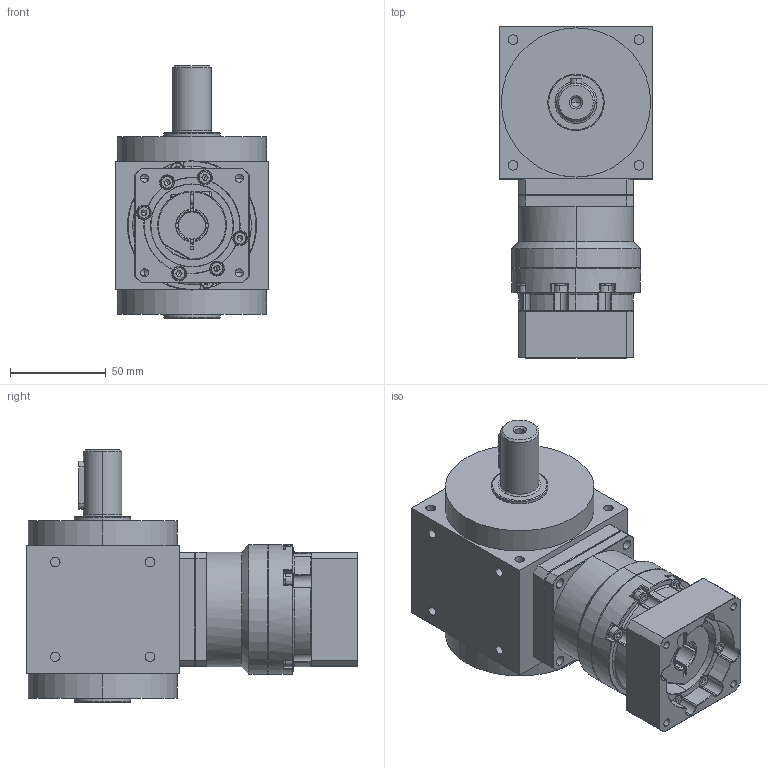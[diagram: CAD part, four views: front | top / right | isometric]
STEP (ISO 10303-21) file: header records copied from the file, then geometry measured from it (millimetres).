
FILE_DESCRIPTION (( 'STEP AP203' ), '1' );
FILE_NAME ('AAW080AS-L1-P 14-50-70-M5.STEP', '2024-12-23T09:24:58', ( '' ), ( '' ), 'SwSTEP 2.0', 'SolidWorks 2021', '' );
FILE_SCHEMA (( 'CONFIG_CONTROL_DESIGN' ));
Length unit declared in the file: millimetre
Products named in the file (3): AAW080AS-P; AAW080AS-L1-P 14-50-70-M5; VRB-060-L1-S2-P1 14-50-70-M5
Assembly tree (2 placements, depth 2):
  AAW080AS-L1-P 14-50-70-M5
    AAW080AS-P
    VRB-060-L1-S2-P1 14-50-70-M5
Bounding box: 80 x 173.5 x 132 mm (x, y, z)
Volume: 809837.6 mm3; surface area: 110533.2 mm2
Topology: 32 solids, 32 shells, 1047 faces, 2528 edges, 1568 vertices
Faces by surface type: plane 414, cylinder 371, cone 194, torus 50, bspline 18
Entity records: 31627 total; most frequent: CARTESIAN_POINT 6728, DIRECTION 5449, ORIENTED_EDGE 4956, EDGE_CURVE 2478, AXIS2_PLACEMENT_3D 2174, VERTEX_POINT 1568, EDGE_LOOP 1162, CIRCLE 1140
